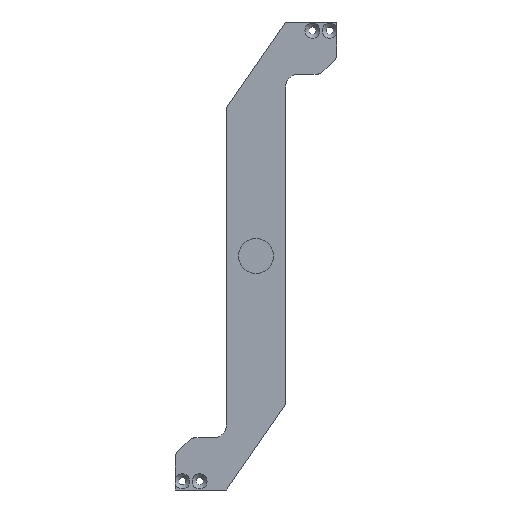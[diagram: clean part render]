
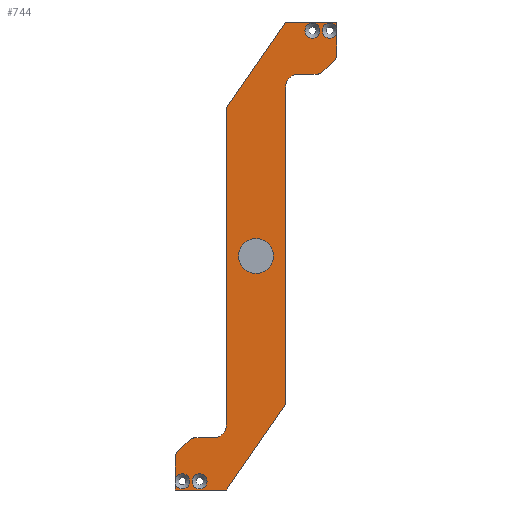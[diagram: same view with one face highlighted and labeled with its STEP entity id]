
A CAD part, front view. The second image highlights one B-rep face of the part: STEP entity #744.
In plain terms, the highlighted planar face has unit normal (0, -1, 0).
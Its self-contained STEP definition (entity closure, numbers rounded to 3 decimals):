
#30=FACE_BOUND('',#94,.T.);
#31=FACE_BOUND('',#95,.T.);
#32=FACE_BOUND('',#96,.T.);
#35=PLANE('',#819);
#54=FACE_OUTER_BOUND('',#93,.T.);
#93=EDGE_LOOP('',(#541,#542,#543,#544,#545,#546,#547,#548,#549,#550,#551,
#552,#553,#554,#555,#556,#557,#558,#559,#560,#561,#562,#563,#564));
#94=EDGE_LOOP('',(#565,#566));
#95=EDGE_LOOP('',(#567,#568));
#96=EDGE_LOOP('',(#569,#570));
#143=LINE('',#1191,#203);
#148=LINE('',#1205,#208);
#149=LINE('',#1211,#209);
#150=LINE('',#1213,#210);
#151=LINE('',#1215,#211);
#152=LINE('',#1217,#212);
#153=LINE('',#1220,#213);
#154=LINE('',#1222,#214);
#155=LINE('',#1226,#215);
#156=LINE('',#1232,#216);
#157=LINE('',#1234,#217);
#158=LINE('',#1236,#218);
#159=LINE('',#1238,#219);
#160=LINE('',#1241,#220);
#203=VECTOR('',#941,10.);
#208=VECTOR('',#956,10.);
#209=VECTOR('',#961,10.);
#210=VECTOR('',#962,10.);
#211=VECTOR('',#963,10.);
#212=VECTOR('',#964,10.);
#213=VECTOR('',#967,10.);
#214=VECTOR('',#968,10.);
#215=VECTOR('',#971,10.);
#216=VECTOR('',#976,10.);
#217=VECTOR('',#977,10.);
#218=VECTOR('',#978,10.);
#219=VECTOR('',#979,10.);
#220=VECTOR('',#982,10.);
#248=CIRCLE('',#797,2.);
#264=CIRCLE('',#816,2.);
#265=CIRCLE('',#818,2.);
#266=CIRCLE('',#820,2.75);
#267=CIRCLE('',#821,2.75);
#268=CIRCLE('',#822,4.775);
#269=CIRCLE('',#823,2.);
#270=CIRCLE('',#824,2.75);
#271=CIRCLE('',#825,2.75);
#272=CIRCLE('',#826,4.775);
#273=CIRCLE('',#827,6.4);
#274=CIRCLE('',#828,6.4);
#275=CIRCLE('',#829,2.75);
#276=CIRCLE('',#830,2.75);
#277=CIRCLE('',#831,2.75);
#278=CIRCLE('',#832,2.75);
#301=VERTEX_POINT('',#1126);
#302=VERTEX_POINT('',#1128);
#331=VERTEX_POINT('',#1190);
#332=VERTEX_POINT('',#1194);
#333=VERTEX_POINT('',#1198);
#334=VERTEX_POINT('',#1199);
#335=VERTEX_POINT('',#1204);
#336=VERTEX_POINT('',#1206);
#337=VERTEX_POINT('',#1208);
#338=VERTEX_POINT('',#1210);
#339=VERTEX_POINT('',#1212);
#340=VERTEX_POINT('',#1214);
#341=VERTEX_POINT('',#1216);
#342=VERTEX_POINT('',#1218);
#343=VERTEX_POINT('',#1221);
#344=VERTEX_POINT('',#1223);
#345=VERTEX_POINT('',#1225);
#346=VERTEX_POINT('',#1227);
#347=VERTEX_POINT('',#1229);
#348=VERTEX_POINT('',#1231);
#349=VERTEX_POINT('',#1233);
#350=VERTEX_POINT('',#1235);
#351=VERTEX_POINT('',#1237);
#352=VERTEX_POINT('',#1239);
#353=VERTEX_POINT('',#1242);
#354=VERTEX_POINT('',#1243);
#355=VERTEX_POINT('',#1246);
#356=VERTEX_POINT('',#1247);
#357=VERTEX_POINT('',#1250);
#358=VERTEX_POINT('',#1251);
#381=EDGE_CURVE('',#301,#302,#248,.T.);
#412=EDGE_CURVE('',#331,#302,#143,.T.);
#414=EDGE_CURVE('',#331,#332,#264,.T.);
#416=EDGE_CURVE('',#333,#334,#265,.T.);
#419=EDGE_CURVE('',#335,#301,#148,.T.);
#420=EDGE_CURVE('',#335,#336,#266,.T.);
#421=EDGE_CURVE('',#336,#337,#267,.T.);
#422=EDGE_CURVE('',#338,#337,#149,.T.);
#423=EDGE_CURVE('',#339,#338,#150,.T.);
#424=EDGE_CURVE('',#340,#339,#151,.T.);
#425=EDGE_CURVE('',#341,#340,#152,.T.);
#426=EDGE_CURVE('',#342,#341,#268,.T.);
#427=EDGE_CURVE('',#334,#342,#153,.T.);
#428=EDGE_CURVE('',#333,#343,#154,.T.);
#429=EDGE_CURVE('',#344,#343,#269,.T.);
#430=EDGE_CURVE('',#345,#344,#155,.T.);
#431=EDGE_CURVE('',#345,#346,#270,.T.);
#432=EDGE_CURVE('',#346,#347,#271,.T.);
#433=EDGE_CURVE('',#348,#347,#156,.T.);
#434=EDGE_CURVE('',#349,#348,#157,.T.);
#435=EDGE_CURVE('',#350,#349,#158,.T.);
#436=EDGE_CURVE('',#351,#350,#159,.T.);
#437=EDGE_CURVE('',#352,#351,#272,.T.);
#438=EDGE_CURVE('',#332,#352,#160,.T.);
#439=EDGE_CURVE('',#353,#354,#273,.T.);
#440=EDGE_CURVE('',#354,#353,#274,.T.);
#441=EDGE_CURVE('',#355,#356,#275,.T.);
#442=EDGE_CURVE('',#356,#355,#276,.T.);
#443=EDGE_CURVE('',#357,#358,#277,.T.);
#444=EDGE_CURVE('',#358,#357,#278,.T.);
#541=ORIENTED_EDGE('',*,*,#381,.F.);
#542=ORIENTED_EDGE('',*,*,#419,.F.);
#543=ORIENTED_EDGE('',*,*,#420,.T.);
#544=ORIENTED_EDGE('',*,*,#421,.T.);
#545=ORIENTED_EDGE('',*,*,#422,.F.);
#546=ORIENTED_EDGE('',*,*,#423,.F.);
#547=ORIENTED_EDGE('',*,*,#424,.F.);
#548=ORIENTED_EDGE('',*,*,#425,.F.);
#549=ORIENTED_EDGE('',*,*,#426,.F.);
#550=ORIENTED_EDGE('',*,*,#427,.F.);
#551=ORIENTED_EDGE('',*,*,#416,.F.);
#552=ORIENTED_EDGE('',*,*,#428,.T.);
#553=ORIENTED_EDGE('',*,*,#429,.F.);
#554=ORIENTED_EDGE('',*,*,#430,.F.);
#555=ORIENTED_EDGE('',*,*,#431,.T.);
#556=ORIENTED_EDGE('',*,*,#432,.T.);
#557=ORIENTED_EDGE('',*,*,#433,.F.);
#558=ORIENTED_EDGE('',*,*,#434,.F.);
#559=ORIENTED_EDGE('',*,*,#435,.F.);
#560=ORIENTED_EDGE('',*,*,#436,.F.);
#561=ORIENTED_EDGE('',*,*,#437,.F.);
#562=ORIENTED_EDGE('',*,*,#438,.F.);
#563=ORIENTED_EDGE('',*,*,#414,.F.);
#564=ORIENTED_EDGE('',*,*,#412,.T.);
#565=ORIENTED_EDGE('',*,*,#439,.T.);
#566=ORIENTED_EDGE('',*,*,#440,.T.);
#567=ORIENTED_EDGE('',*,*,#441,.T.);
#568=ORIENTED_EDGE('',*,*,#442,.T.);
#569=ORIENTED_EDGE('',*,*,#443,.T.);
#570=ORIENTED_EDGE('',*,*,#444,.T.);
#744=ADVANCED_FACE('',(#54,#30,#31,#32),#35,.F.);
#797=AXIS2_PLACEMENT_3D('',#1129,#890,#891);
#816=AXIS2_PLACEMENT_3D('',#1195,#945,#946);
#818=AXIS2_PLACEMENT_3D('',#1200,#950,#951);
#819=AXIS2_PLACEMENT_3D('',#1203,#954,#955);
#820=AXIS2_PLACEMENT_3D('',#1207,#957,#958);
#821=AXIS2_PLACEMENT_3D('',#1209,#959,#960);
#822=AXIS2_PLACEMENT_3D('',#1219,#965,#966);
#823=AXIS2_PLACEMENT_3D('',#1224,#969,#970);
#824=AXIS2_PLACEMENT_3D('',#1228,#972,#973);
#825=AXIS2_PLACEMENT_3D('',#1230,#974,#975);
#826=AXIS2_PLACEMENT_3D('',#1240,#980,#981);
#827=AXIS2_PLACEMENT_3D('',#1244,#983,#984);
#828=AXIS2_PLACEMENT_3D('',#1245,#985,#986);
#829=AXIS2_PLACEMENT_3D('',#1248,#987,#988);
#830=AXIS2_PLACEMENT_3D('',#1249,#989,#990);
#831=AXIS2_PLACEMENT_3D('',#1252,#991,#992);
#832=AXIS2_PLACEMENT_3D('',#1253,#993,#994);
#890=DIRECTION('center_axis',(0.,1.,0.));
#891=DIRECTION('ref_axis',(0.924,0.,-0.383));
#941=DIRECTION('',(0.707,0.,0.707));
#945=DIRECTION('center_axis',(0.,1.,0.));
#946=DIRECTION('ref_axis',(0.383,0.,-0.924));
#950=DIRECTION('center_axis',(0.,1.,0.));
#951=DIRECTION('ref_axis',(-0.383,0.,0.924));
#954=DIRECTION('center_axis',(0.,1.,0.));
#955=DIRECTION('ref_axis',(0.,0.,1.));
#956=DIRECTION('',(0.,0.,-1.));
#957=DIRECTION('center_axis',(0.,1.,0.));
#958=DIRECTION('ref_axis',(1.,0.,0.));
#959=DIRECTION('center_axis',(0.,1.,0.));
#960=DIRECTION('ref_axis',(1.,0.,0.));
#961=DIRECTION('',(0.,0.,-1.));
#962=DIRECTION('',(1.,0.,0.));
#963=DIRECTION('',(0.569,0.,0.822));
#964=DIRECTION('',(0.,0.,1.));
#965=DIRECTION('center_axis',(0.,-1.,0.));
#966=DIRECTION('ref_axis',(-1.,0.,0.));
#967=DIRECTION('',(1.,0.,0.));
#968=DIRECTION('',(-0.707,0.,-0.707));
#969=DIRECTION('center_axis',(0.,1.,0.));
#970=DIRECTION('ref_axis',(-0.924,0.,0.383));
#971=DIRECTION('',(0.,0.,1.));
#972=DIRECTION('center_axis',(0.,1.,0.));
#973=DIRECTION('ref_axis',(-1.,0.,0.));
#974=DIRECTION('center_axis',(0.,1.,0.));
#975=DIRECTION('ref_axis',(-1.,0.,0.));
#976=DIRECTION('',(0.,0.,1.));
#977=DIRECTION('',(-1.,0.,0.));
#978=DIRECTION('',(-0.569,0.,-0.822));
#979=DIRECTION('',(0.,0.,-1.));
#980=DIRECTION('center_axis',(0.,-1.,0.));
#981=DIRECTION('ref_axis',(1.,0.,0.));
#982=DIRECTION('',(-1.,0.,0.));
#983=DIRECTION('center_axis',(0.,1.,0.));
#984=DIRECTION('ref_axis',(1.,0.,0.));
#985=DIRECTION('center_axis',(0.,1.,0.));
#986=DIRECTION('ref_axis',(1.,0.,0.));
#987=DIRECTION('center_axis',(0.,1.,0.));
#988=DIRECTION('ref_axis',(1.,0.,0.));
#989=DIRECTION('center_axis',(0.,1.,0.));
#990=DIRECTION('ref_axis',(1.,0.,0.));
#991=DIRECTION('center_axis',(0.,1.,0.));
#992=DIRECTION('ref_axis',(-1.,0.,0.));
#993=DIRECTION('center_axis',(0.,1.,0.));
#994=DIRECTION('ref_axis',(-1.,0.,0.));
#1126=CARTESIAN_POINT('',(0.,0.,-12.222));
#1128=CARTESIAN_POINT('',(-0.586,0.,-13.636));
#1129=CARTESIAN_POINT('Origin',(-2.,0.,-12.222));
#1190=CARTESIAN_POINT('',(-5.414,0.,-18.464));
#1191=CARTESIAN_POINT('',(-12.835,0.,-25.885));
#1194=CARTESIAN_POINT('',(-6.828,0.,-19.05));
#1195=CARTESIAN_POINT('Origin',(-6.828,0.,-17.05));
#1198=CARTESIAN_POINT('',(-53.717,0.,-152.935));
#1199=CARTESIAN_POINT('',(-52.303,0.,-152.349));
#1200=CARTESIAN_POINT('Origin',(-52.303,0.,-154.349));
#1203=CARTESIAN_POINT('Origin',(-23.475,0.,-40.916));
#1204=CARTESIAN_POINT('',(0.,0.,-4.229));
#1205=CARTESIAN_POINT('',(0.,0.,0.));
#1206=CARTESIAN_POINT('',(-5.29,0.,-3.175));
#1207=CARTESIAN_POINT('Origin',(-2.54,0.,-3.175));
#1208=CARTESIAN_POINT('',(0.,0.,-2.121));
#1209=CARTESIAN_POINT('Origin',(-2.54,0.,-3.175));
#1210=CARTESIAN_POINT('',(0.,0.,0.));
#1211=CARTESIAN_POINT('',(0.,0.,0.));
#1212=CARTESIAN_POINT('',(-18.745,0.,0.));
#1213=CARTESIAN_POINT('',(-18.745,0.,0.));
#1214=CARTESIAN_POINT('',(-40.386,0.,-31.293));
#1215=CARTESIAN_POINT('',(-40.386,0.,-31.293));
#1216=CARTESIAN_POINT('',(-40.386,0.,-147.574));
#1217=CARTESIAN_POINT('',(-40.386,0.,-85.7));
#1218=CARTESIAN_POINT('',(-45.161,0.,-152.349));
#1219=CARTESIAN_POINT('Origin',(-45.161,0.,-147.574));
#1220=CARTESIAN_POINT('',(-59.131,0.,-152.349));
#1221=CARTESIAN_POINT('',(-58.545,0.,-157.763));
#1222=CARTESIAN_POINT('',(-20.859,0.,-120.077));
#1223=CARTESIAN_POINT('',(-59.131,0.,-159.178));
#1224=CARTESIAN_POINT('Origin',(-57.131,0.,-159.178));
#1225=CARTESIAN_POINT('',(-59.131,0.,-167.17));
#1226=CARTESIAN_POINT('',(-59.131,0.,-171.399));
#1227=CARTESIAN_POINT('',(-53.841,0.,-168.224));
#1228=CARTESIAN_POINT('Origin',(-56.591,0.,-168.224));
#1229=CARTESIAN_POINT('',(-59.131,0.,-169.278));
#1230=CARTESIAN_POINT('Origin',(-56.591,0.,-168.224));
#1231=CARTESIAN_POINT('',(-59.131,0.,-171.399));
#1232=CARTESIAN_POINT('',(-59.131,0.,-171.399));
#1233=CARTESIAN_POINT('',(-40.386,0.,-171.399));
#1234=CARTESIAN_POINT('',(-40.386,0.,-171.399));
#1235=CARTESIAN_POINT('',(-18.745,0.,-140.106));
#1236=CARTESIAN_POINT('',(-18.745,0.,-140.106));
#1237=CARTESIAN_POINT('',(-18.745,0.,-23.825));
#1238=CARTESIAN_POINT('',(-18.745,0.,-23.825));
#1239=CARTESIAN_POINT('',(-13.97,0.,-19.05));
#1240=CARTESIAN_POINT('Origin',(-13.97,0.,-23.825));
#1241=CARTESIAN_POINT('',(0.,0.,-19.05));
#1242=CARTESIAN_POINT('',(-23.166,0.,-85.7));
#1243=CARTESIAN_POINT('',(-35.966,0.,-85.7));
#1244=CARTESIAN_POINT('Origin',(-29.566,0.,-85.7));
#1245=CARTESIAN_POINT('Origin',(-29.566,0.,-85.7));
#1246=CARTESIAN_POINT('',(-6.14,0.,-3.175));
#1247=CARTESIAN_POINT('',(-11.64,0.,-3.175));
#1248=CARTESIAN_POINT('Origin',(-8.89,0.,-3.175));
#1249=CARTESIAN_POINT('Origin',(-8.89,0.,-3.175));
#1250=CARTESIAN_POINT('',(-52.991,0.,-168.224));
#1251=CARTESIAN_POINT('',(-47.491,0.,-168.224));
#1252=CARTESIAN_POINT('Origin',(-50.241,0.,-168.224));
#1253=CARTESIAN_POINT('Origin',(-50.241,0.,-168.224));
